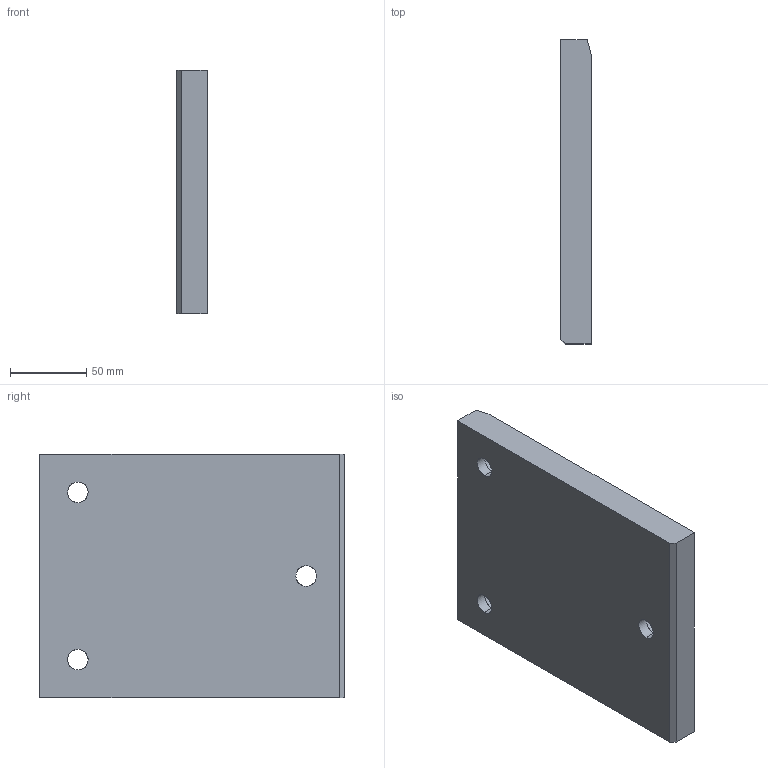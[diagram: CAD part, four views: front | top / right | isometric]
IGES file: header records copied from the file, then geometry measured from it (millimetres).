
Start section: START RECORD GO HERE.
Global section: file name: A915-160X200.igs; native system: DASSAULT SYSTEMES CATIA V5 R20 - www.3ds.com; preprocessor: CATIA Version 5 Release 20 ; author: Utente; organization: NB04-ASUS; date: 20200407.205337; units: millimetre
Bounding box: 20 x 200 x 160 mm (x, y, z)
Surface area: 79961.1 mm2 (no closed solid volume)
Topology: 0 solids, 0 shells, 30 faces, 138 edges, 138 vertices
Faces by surface type: revolution 19, extrusion 11
